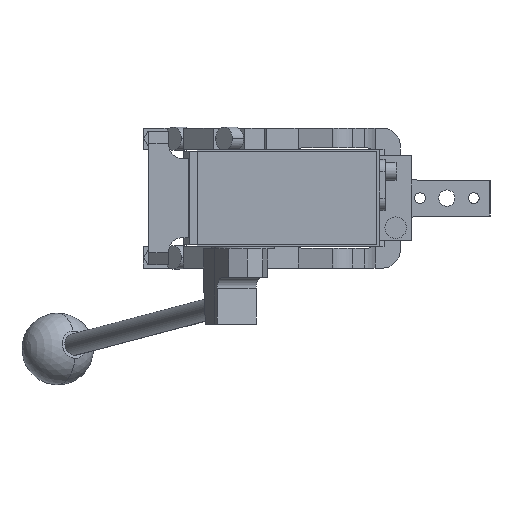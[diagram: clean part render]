
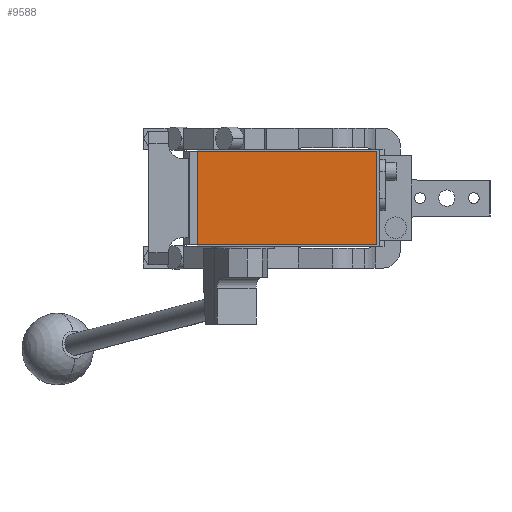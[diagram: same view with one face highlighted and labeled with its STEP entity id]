
A CAD part, front view. The second image highlights one B-rep face of the part: STEP entity #9588.
In plain terms, the highlighted planar face has unit normal (0, -1, 0).
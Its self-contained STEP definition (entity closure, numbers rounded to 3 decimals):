
#438 = CARTESIAN_POINT ( 'NONE',  ( -19., -286.5, -26. ) ) ;
#631 = DIRECTION ( 'NONE',  ( 0., 0., -1. ) ) ;
#917 = PLANE ( 'NONE',  #14839 ) ;
#1103 = LINE ( 'NONE', #11127, #10110 ) ;
#1360 = LINE ( 'NONE', #438, #7292 ) ;
#1480 = VERTEX_POINT ( 'NONE', #14874 ) ;
#1554 = VERTEX_POINT ( 'NONE', #7032 ) ;
#1602 = VERTEX_POINT ( 'NONE', #10100 ) ;
#2744 = EDGE_CURVE ( 'NONE', #4404, #1480, #15699, .T. ) ;
#3459 = DIRECTION ( 'NONE',  ( 0., -1., 0. ) ) ;
#4404 = VERTEX_POINT ( 'NONE', #8131 ) ;
#4967 = VECTOR ( 'NONE', #631, 1000. ) ;
#6300 = ORIENTED_EDGE ( 'NONE', *, *, #2744, .T. ) ;
#6440 = ORIENTED_EDGE ( 'NONE', *, *, #9602, .T. ) ;
#6847 = LINE ( 'NONE', #11893, #10920 ) ;
#7032 = CARTESIAN_POINT ( 'NONE',  ( 81., -286.5, -26. ) ) ;
#7084 = DIRECTION ( 'NONE',  ( -1., 0., 0. ) ) ;
#7087 = DIRECTION ( 'NONE',  ( 0., 0., 1. ) ) ;
#7292 = VECTOR ( 'NONE', #10249, 1000. ) ;
#8131 = CARTESIAN_POINT ( 'NONE',  ( -19., -286.5, 26. ) ) ;
#8284 = CARTESIAN_POINT ( 'NONE',  ( -19., -286.5, 26. ) ) ;
#8831 = ORIENTED_EDGE ( 'NONE', *, *, #11993, .T. ) ;
#9588 = ADVANCED_FACE ( 'NONE', ( #16086 ), #917, .T. ) ;
#9602 = EDGE_CURVE ( 'NONE', #1602, #4404, #1103, .T. ) ;
#9895 = DIRECTION ( 'NONE',  ( 0., 0., -1. ) ) ;
#10100 = CARTESIAN_POINT ( 'NONE',  ( 81., -286.5, 26. ) ) ;
#10110 = VECTOR ( 'NONE', #7084, 1000. ) ;
#10249 = DIRECTION ( 'NONE',  ( 1., 0., 0. ) ) ;
#10708 = ORIENTED_EDGE ( 'NONE', *, *, #11813, .T. ) ;
#10920 = VECTOR ( 'NONE', #7087, 1000. ) ;
#11127 = CARTESIAN_POINT ( 'NONE',  ( -19., -286.5, 26. ) ) ;
#11813 = EDGE_CURVE ( 'NONE', #1480, #1554, #1360, .T. ) ;
#11893 = CARTESIAN_POINT ( 'NONE',  ( 81., -286.5, 26. ) ) ;
#11993 = EDGE_CURVE ( 'NONE', #1554, #1602, #6847, .T. ) ;
#13048 = EDGE_LOOP ( 'NONE', ( #6300, #10708, #8831, #6440 ) ) ;
#14657 = CARTESIAN_POINT ( 'NONE',  ( 0., -286.5, 0. ) ) ;
#14839 = AXIS2_PLACEMENT_3D ( 'NONE', #14657, #3459, #9895 ) ;
#14874 = CARTESIAN_POINT ( 'NONE',  ( -19., -286.5, -26. ) ) ;
#15699 = LINE ( 'NONE', #8284, #4967 ) ;
#16086 = FACE_OUTER_BOUND ( 'NONE', #13048, .T. ) ;
